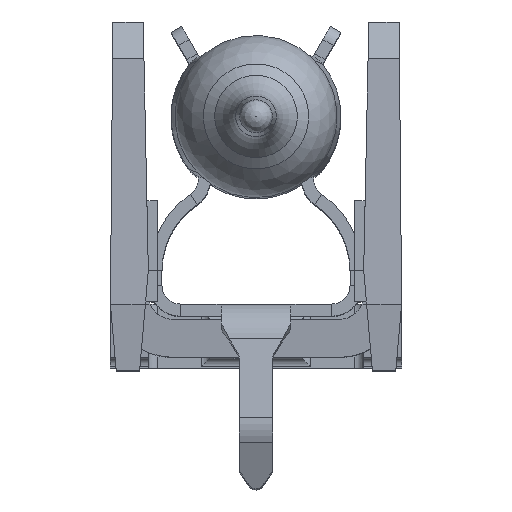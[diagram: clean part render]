
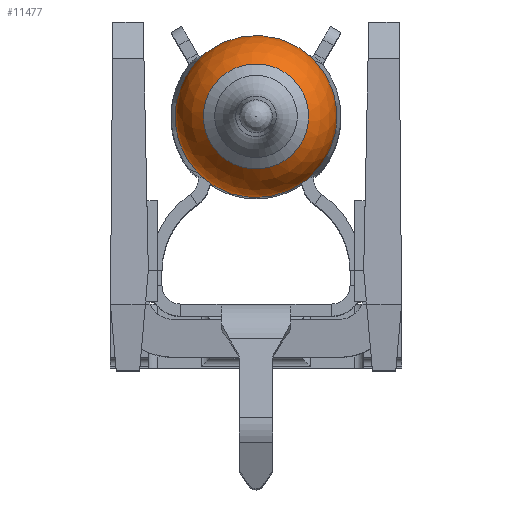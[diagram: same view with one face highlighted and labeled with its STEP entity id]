
A CAD part, top view. The second image highlights one B-rep face of the part: STEP entity #11477.
In plain terms, the highlighted spherical face has radius 2.675 mm.
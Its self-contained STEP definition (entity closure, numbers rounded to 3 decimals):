
#25=SPHERICAL_SURFACE('',#12442,2.675);
#1761=FACE_OUTER_BOUND('',#2392,.T.);
#2392=EDGE_LOOP('',(#10699,#10700,#10701,#10702,#10703,#10704,#10705));
#4850=CIRCLE('',#12440,2.614);
#4851=CIRCLE('',#12441,2.614);
#4852=CIRCLE('',#12443,1.734);
#4853=CIRCLE('',#12444,1.734);
#4854=CIRCLE('',#12445,2.675);
#4855=CIRCLE('',#12446,1.734);
#5864=VERTEX_POINT('',#21365);
#5865=VERTEX_POINT('',#21367);
#5866=VERTEX_POINT('',#21371);
#5867=VERTEX_POINT('',#21372);
#5868=VERTEX_POINT('',#21374);
#7478=EDGE_CURVE('',#5865,#5864,#4850,.T.);
#7479=EDGE_CURVE('',#5864,#5865,#4851,.T.);
#7480=EDGE_CURVE('',#5866,#5867,#4852,.T.);
#7481=EDGE_CURVE('',#5868,#5866,#4853,.T.);
#7482=EDGE_CURVE('',#5868,#5865,#4854,.T.);
#7483=EDGE_CURVE('',#5867,#5868,#4855,.T.);
#10699=ORIENTED_EDGE('',*,*,#7480,.F.);
#10700=ORIENTED_EDGE('',*,*,#7481,.F.);
#10701=ORIENTED_EDGE('',*,*,#7482,.T.);
#10702=ORIENTED_EDGE('',*,*,#7478,.T.);
#10703=ORIENTED_EDGE('',*,*,#7479,.T.);
#10704=ORIENTED_EDGE('',*,*,#7482,.F.);
#10705=ORIENTED_EDGE('',*,*,#7483,.F.);
#11477=ADVANCED_FACE('',(#1761),#25,.T.);
#12440=AXIS2_PLACEMENT_3D('',#21368,#15252,#15253);
#12441=AXIS2_PLACEMENT_3D('',#21369,#15254,#15255);
#12442=AXIS2_PLACEMENT_3D('',#21370,#15256,#15257);
#12443=AXIS2_PLACEMENT_3D('',#21373,#15258,#15259);
#12444=AXIS2_PLACEMENT_3D('',#21375,#15260,#15261);
#12445=AXIS2_PLACEMENT_3D('',#21376,#15262,#15263);
#12446=AXIS2_PLACEMENT_3D('',#21377,#15264,#15265);
#15252=DIRECTION('center_axis',(1.,0.,0.));
#15253=DIRECTION('ref_axis',(0.,1.,0.));
#15254=DIRECTION('center_axis',(1.,0.,0.));
#15255=DIRECTION('ref_axis',(0.,0.,-1.));
#15256=DIRECTION('center_axis',(1.,0.,0.));
#15257=DIRECTION('ref_axis',(0.,-1.,0.));
#15258=DIRECTION('center_axis',(1.,0.,0.));
#15259=DIRECTION('ref_axis',(0.,0.,-1.));
#15260=DIRECTION('center_axis',(1.,0.,0.));
#15261=DIRECTION('ref_axis',(0.,1.,0.));
#15262=DIRECTION('center_axis',(0.,0.,1.));
#15263=DIRECTION('ref_axis',(0.,1.,0.));
#15264=DIRECTION('center_axis',(1.,0.,0.));
#15265=DIRECTION('ref_axis',(0.,0.,-1.));
#21365=CARTESIAN_POINT('',(24.173,0.,2.614));
#21367=CARTESIAN_POINT('',(24.173,2.614,0.));
#21368=CARTESIAN_POINT('Origin',(24.173,0.,
0.));
#21369=CARTESIAN_POINT('Origin',(24.173,0.,
0.));
#21370=CARTESIAN_POINT('Origin',(24.741,0.,
0.));
#21371=CARTESIAN_POINT('',(26.778,0.,1.734));
#21372=CARTESIAN_POINT('',(26.778,-1.734,0.));
#21373=CARTESIAN_POINT('Origin',(26.778,0.,
0.));
#21374=CARTESIAN_POINT('',(26.778,1.734,0.));
#21375=CARTESIAN_POINT('Origin',(26.778,0.,
0.));
#21376=CARTESIAN_POINT('Origin',(24.741,0.,
0.));
#21377=CARTESIAN_POINT('Origin',(26.778,0.,
0.));
